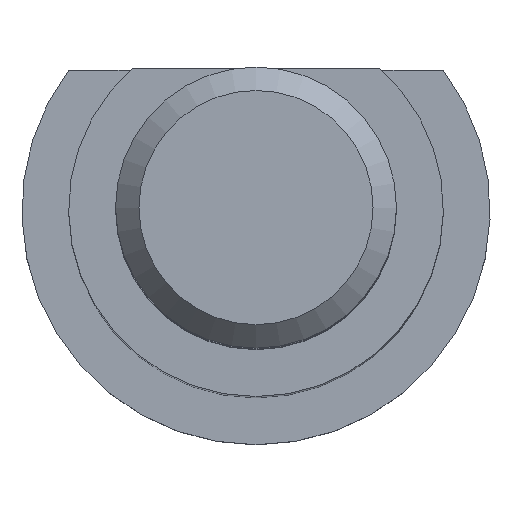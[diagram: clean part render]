
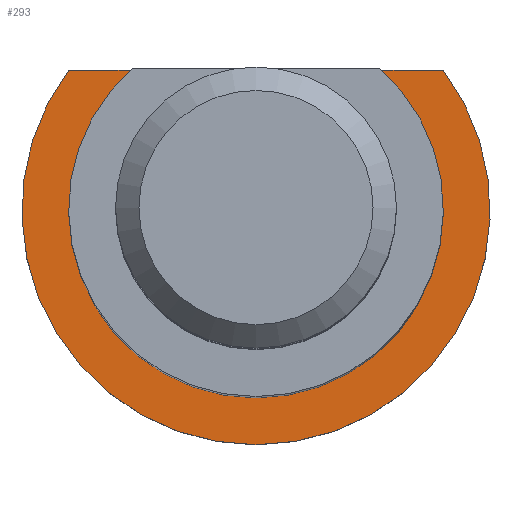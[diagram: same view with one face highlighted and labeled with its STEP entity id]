
A CAD part, top view. The second image highlights one B-rep face of the part: STEP entity #293.
In plain terms, the highlighted planar face has unit normal (0, 0, 1).
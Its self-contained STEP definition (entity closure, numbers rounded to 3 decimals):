
#24=PLANE('',#351);
#47=FACE_OUTER_BOUND('',#67,.T.);
#67=EDGE_LOOP('',(#261,#262,#263,#264));
#78=LINE('',#494,#98);
#83=LINE('',#504,#103);
#98=VECTOR('',#399,10.);
#103=VECTOR('',#404,10.);
#127=CIRCLE('',#350,4.);
#128=CIRCLE('',#352,5.);
#143=VERTEX_POINT('',#491);
#144=VERTEX_POINT('',#493);
#148=VERTEX_POINT('',#501);
#149=VERTEX_POINT('',#503);
#173=EDGE_CURVE('',#144,#143,#78,.T.);
#178=EDGE_CURVE('',#149,#148,#83,.T.);
#193=EDGE_CURVE('',#148,#144,#127,.T.);
#194=EDGE_CURVE('',#149,#143,#128,.T.);
#261=ORIENTED_EDGE('',*,*,#173,.T.);
#262=ORIENTED_EDGE('',*,*,#194,.F.);
#263=ORIENTED_EDGE('',*,*,#178,.T.);
#264=ORIENTED_EDGE('',*,*,#193,.T.);
#293=ADVANCED_FACE('',(#47),#24,.T.);
#350=AXIS2_PLACEMENT_3D('',#533,#440,#441);
#351=AXIS2_PLACEMENT_3D('',#534,#442,#443);
#352=AXIS2_PLACEMENT_3D('',#535,#444,#445);
#399=DIRECTION('',(-1.,0.,0.));
#404=DIRECTION('',(-1.,0.,0.));
#440=DIRECTION('center_axis',(0.,0.,-1.));
#441=DIRECTION('ref_axis',(1.,0.,0.));
#442=DIRECTION('center_axis',(0.,0.,1.));
#443=DIRECTION('ref_axis',(1.,0.,0.));
#444=DIRECTION('center_axis',(0.,0.,-1.));
#445=DIRECTION('ref_axis',(1.,0.,0.));
#491=CARTESIAN_POINT('',(-4.,3.,15.));
#493=CARTESIAN_POINT('',(-2.646,3.,15.));
#494=CARTESIAN_POINT('',(0.,3.,15.));
#501=CARTESIAN_POINT('',(2.646,3.,15.));
#503=CARTESIAN_POINT('',(4.,3.,15.));
#504=CARTESIAN_POINT('',(0.,3.,15.));
#533=CARTESIAN_POINT('Origin',(0.,0.,15.));
#534=CARTESIAN_POINT('Origin',(0.,5.,15.));
#535=CARTESIAN_POINT('Origin',(0.,0.,15.));
